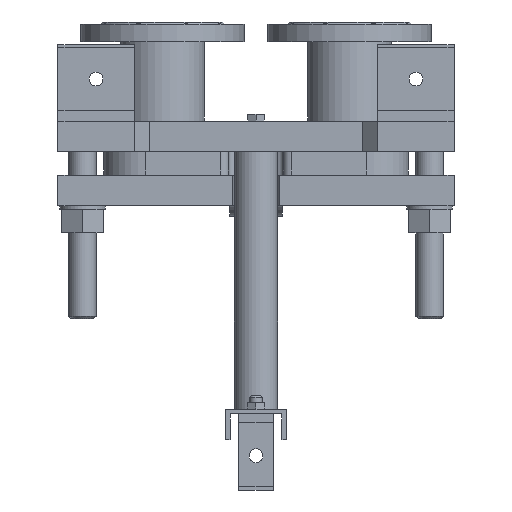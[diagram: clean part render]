
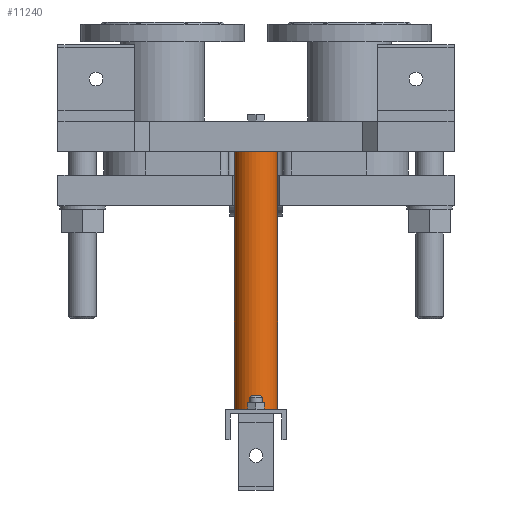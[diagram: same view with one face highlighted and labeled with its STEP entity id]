
A CAD part, front view. The second image highlights one B-rep face of the part: STEP entity #11240.
In plain terms, the highlighted cylindrical face has radius 28.5 mm (diameter 57 mm), a full revolution.
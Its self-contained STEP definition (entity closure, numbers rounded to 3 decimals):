
#781=LINE('',#22043,#1754);
#1754=VECTOR('',#14569,28.5);
#2333=CYLINDRICAL_SURFACE('',#12263,28.5);
#2995=FACE_OUTER_BOUND('',#3777,.T.);
#3777=EDGE_LOOP('',(#9013,#9014,#9015,#9016));
#4462=CIRCLE('',#12264,28.5);
#4463=CIRCLE('',#12265,28.5);
#5286=VERTEX_POINT('',#22040);
#5287=VERTEX_POINT('',#22042);
#6596=EDGE_CURVE('',#5286,#5286,#4462,.T.);
#6597=EDGE_CURVE('',#5286,#5287,#781,.T.);
#6598=EDGE_CURVE('',#5287,#5287,#4463,.T.);
#9013=ORIENTED_EDGE('',*,*,#6596,.F.);
#9014=ORIENTED_EDGE('',*,*,#6597,.T.);
#9015=ORIENTED_EDGE('',*,*,#6598,.T.);
#9016=ORIENTED_EDGE('',*,*,#6597,.F.);
#11240=ADVANCED_FACE('',(#2995),#2333,.T.);
#12263=AXIS2_PLACEMENT_3D('',#22039,#14565,#14566);
#12264=AXIS2_PLACEMENT_3D('',#22041,#14567,#14568);
#12265=AXIS2_PLACEMENT_3D('',#22044,#14570,#14571);
#14565=DIRECTION('center_axis',(0.,0.,
-1.));
#14566=DIRECTION('ref_axis',(-1.,0.,0.));
#14567=DIRECTION('center_axis',(0.,0.,
-1.));
#14568=DIRECTION('ref_axis',(-1.,0.,0.));
#14569=DIRECTION('',(0.,0.,1.));
#14570=DIRECTION('center_axis',(0.,0.,
-1.));
#14571=DIRECTION('ref_axis',(-1.,0.,0.));
#22039=CARTESIAN_POINT('Origin',(0.,215.,0.));
#22040=CARTESIAN_POINT('',(28.5,215.,-338.5));
#22041=CARTESIAN_POINT('Origin',(0.,215.,-338.5));
#22042=CARTESIAN_POINT('',(28.5,215.,0.));
#22043=CARTESIAN_POINT('',(28.5,215.,0.));
#22044=CARTESIAN_POINT('Origin',(0.,215.,0.));
